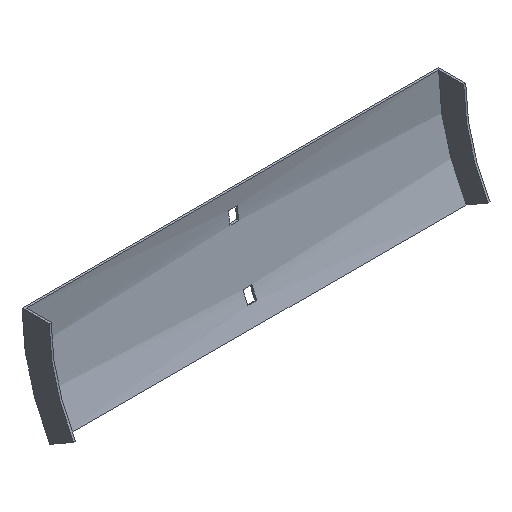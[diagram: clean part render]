
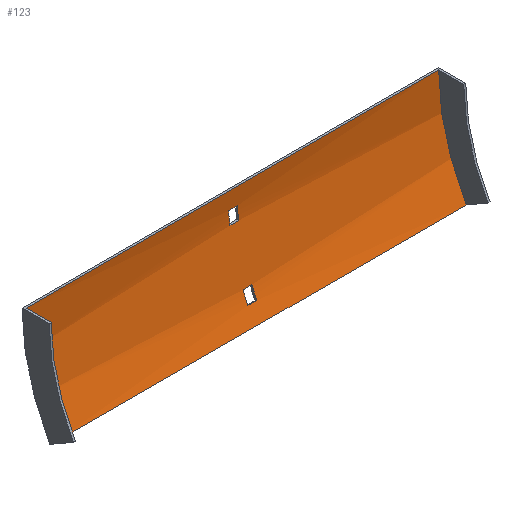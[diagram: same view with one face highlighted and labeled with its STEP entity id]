
A CAD part, isometric view. The second image highlights one B-rep face of the part: STEP entity #123.
In plain terms, the highlighted cylindrical face has radius 152 mm (diameter 304 mm), a partial arc.
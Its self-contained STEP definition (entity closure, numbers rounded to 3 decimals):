
#2 = CARTESIAN_POINT ( 'NONE',  ( -3.25, -16.275, -65.37 ) ) ;
#3 = VECTOR ( 'NONE', #240, 1000. ) ;
#15 = ORIENTED_EDGE ( 'NONE', *, *, #55, .T. ) ;
#16 = CARTESIAN_POINT ( 'NONE',  ( 3.25, -153.5, 0. ) ) ;
#18 = DIRECTION ( 'NONE',  ( -1., 0., 0. ) ) ;
#19 = VERTEX_POINT ( 'NONE', #163 ) ;
#25 = CARTESIAN_POINT ( 'NONE',  ( 3.25, -153.5, 0. ) ) ;
#28 = VERTEX_POINT ( 'NONE', #169 ) ;
#43 = CIRCLE ( 'NONE', #379, 152. ) ;
#45 = EDGE_CURVE ( 'NONE', #28, #149, #167, .T. ) ;
#54 = ORIENTED_EDGE ( 'NONE', *, *, #361, .T. ) ;
#55 = EDGE_CURVE ( 'NONE', #141, #349, #315, .T. ) ;
#60 = CIRCLE ( 'NONE', #269, 152. ) ;
#65 = CARTESIAN_POINT ( 'NONE',  ( 3.25, -16.275, -65.37 ) ) ;
#69 = DIRECTION ( 'NONE',  ( -1., 0., 0. ) ) ;
#73 = CARTESIAN_POINT ( 'NONE',  ( 153.5, -16.275, -65.37 ) ) ;
#74 = VERTEX_POINT ( 'NONE', #171 ) ;
#78 = DIRECTION ( 'NONE',  ( 1., 0., 0. ) ) ;
#79 = CARTESIAN_POINT ( 'NONE',  ( -3.25, -153.5, 0. ) ) ;
#88 = AXIS2_PLACEMENT_3D ( 'NONE', #496, #400, #205 ) ;
#90 = FACE_BOUND ( 'NONE', #142, .T. ) ;
#110 = CARTESIAN_POINT ( 'NONE',  ( 152., -153.5, 0. ) ) ;
#113 = VERTEX_POINT ( 'NONE', #368 ) ;
#123 = ADVANCED_FACE ( 'NONE', ( #90, #406, #555 ), #605, .F. ) ;
#128 = DIRECTION ( 'NONE',  ( -1., 0., 0. ) ) ;
#135 = CIRCLE ( 'NONE', #88, 152. ) ;
#139 = EDGE_CURVE ( 'NONE', #483, #28, #319, .T. ) ;
#141 = VERTEX_POINT ( 'NONE', #203 ) ;
#142 = EDGE_LOOP ( 'NONE', ( #590, #333, #194, #198 ) ) ;
#144 = VERTEX_POINT ( 'NONE', #188 ) ;
#149 = VERTEX_POINT ( 'NONE', #185 ) ;
#157 = DIRECTION ( 'NONE',  ( 0., 0., 1. ) ) ;
#163 = CARTESIAN_POINT ( 'NONE',  ( -152., -21.864, -76. ) ) ;
#167 = CIRCLE ( 'NONE', #252, 152. ) ;
#169 = CARTESIAN_POINT ( 'NONE',  ( -3.25, -1.974, -12. ) ) ;
#170 = CARTESIAN_POINT ( 'NONE',  ( -152., -1.5, 0. ) ) ;
#171 = CARTESIAN_POINT ( 'NONE',  ( 152., -21.864, -76. ) ) ;
#173 = EDGE_CURVE ( 'NONE', #74, #141, #43, .T. ) ;
#174 = DIRECTION ( 'NONE',  ( 0., 0., 1. ) ) ;
#176 = VECTOR ( 'NONE', #449, 1000. ) ;
#181 = CARTESIAN_POINT ( 'NONE',  ( 153.5, -153.5, 0. ) ) ;
#185 = CARTESIAN_POINT ( 'NONE',  ( -3.25, -2.958, -21. ) ) ;
#186 = VECTOR ( 'NONE', #18, 1000. ) ;
#188 = CARTESIAN_POINT ( 'NONE',  ( -3.25, -12.626, -57.085 ) ) ;
#194 = ORIENTED_EDGE ( 'NONE', *, *, #284, .F. ) ;
#197 = EDGE_CURVE ( 'NONE', #19, #349, #60, .T. ) ;
#198 = ORIENTED_EDGE ( 'NONE', *, *, #310, .F. ) ;
#203 = CARTESIAN_POINT ( 'NONE',  ( 152., -1.5, 0. ) ) ;
#205 = DIRECTION ( 'NONE',  ( 0., 0., -1. ) ) ;
#215 = VECTOR ( 'NONE', #443, 1000. ) ;
#220 = CARTESIAN_POINT ( 'NONE',  ( 3.25, -1.974, -12. ) ) ;
#222 = CARTESIAN_POINT ( 'NONE',  ( 152., -1.5, 0. ) ) ;
#228 = DIRECTION ( 'NONE',  ( 1., 0., 0. ) ) ;
#230 = EDGE_CURVE ( 'NONE', #113, #381, #509, .T. ) ;
#240 = DIRECTION ( 'NONE',  ( -1., 0., 0. ) ) ;
#242 = CARTESIAN_POINT ( 'NONE',  ( 152., -21.864, -76. ) ) ;
#244 = DIRECTION ( 'NONE',  ( 0., 0., 1. ) ) ;
#245 = EDGE_LOOP ( 'NONE', ( #401, #335, #534, #15 ) ) ;
#251 = LINE ( 'NONE', #290, #215 ) ;
#252 = AXIS2_PLACEMENT_3D ( 'NONE', #79, #456, #174 ) ;
#261 = AXIS2_PLACEMENT_3D ( 'NONE', #16, #78, #490 ) ;
#269 = AXIS2_PLACEMENT_3D ( 'NONE', #487, #584, #374 ) ;
#278 = CARTESIAN_POINT ( 'NONE',  ( 3.25, -2.958, -21. ) ) ;
#284 = EDGE_CURVE ( 'NONE', #575, #483, #531, .T. ) ;
#286 = DIRECTION ( 'NONE',  ( -1., 0., 0. ) ) ;
#290 = CARTESIAN_POINT ( 'NONE',  ( 153.5, -12.626, -57.085 ) ) ;
#295 = DIRECTION ( 'NONE',  ( 1., 0., 0. ) ) ;
#299 = CARTESIAN_POINT ( 'NONE',  ( 153.5, -2.958, -21. ) ) ;
#308 = AXIS2_PLACEMENT_3D ( 'NONE', #25, #286, #157 ) ;
#310 = EDGE_CURVE ( 'NONE', #149, #575, #393, .T. ) ;
#313 = DIRECTION ( 'NONE',  ( 0., 0., 1. ) ) ;
#315 = LINE ( 'NONE', #222, #176 ) ;
#319 = LINE ( 'NONE', #511, #3 ) ;
#331 = EDGE_CURVE ( 'NONE', #381, #541, #343, .T. ) ;
#333 = ORIENTED_EDGE ( 'NONE', *, *, #139, .F. ) ;
#335 = ORIENTED_EDGE ( 'NONE', *, *, #388, .F. ) ;
#343 = LINE ( 'NONE', #73, #356 ) ;
#349 = VERTEX_POINT ( 'NONE', #170 ) ;
#356 = VECTOR ( 'NONE', #69, 1000. ) ;
#361 = EDGE_CURVE ( 'NONE', #144, #113, #251, .T. ) ;
#368 = CARTESIAN_POINT ( 'NONE',  ( 3.25, -12.626, -57.085 ) ) ;
#370 = EDGE_CURVE ( 'NONE', #541, #144, #135, .T. ) ;
#374 = DIRECTION ( 'NONE',  ( 0., 0., 1. ) ) ;
#379 = AXIS2_PLACEMENT_3D ( 'NONE', #110, #228, #244 ) ;
#381 = VERTEX_POINT ( 'NONE', #65 ) ;
#388 = EDGE_CURVE ( 'NONE', #74, #19, #591, .T. ) ;
#393 = LINE ( 'NONE', #299, #452 ) ;
#399 = ORIENTED_EDGE ( 'NONE', *, *, #331, .T. ) ;
#400 = DIRECTION ( 'NONE',  ( 1., 0., 0. ) ) ;
#401 = ORIENTED_EDGE ( 'NONE', *, *, #197, .F. ) ;
#406 = FACE_OUTER_BOUND ( 'NONE', #245, .T. ) ;
#425 = ORIENTED_EDGE ( 'NONE', *, *, #370, .T. ) ;
#443 = DIRECTION ( 'NONE',  ( 1., 0., 0. ) ) ;
#449 = DIRECTION ( 'NONE',  ( -1., 0., 0. ) ) ;
#452 = VECTOR ( 'NONE', #295, 1000. ) ;
#456 = DIRECTION ( 'NONE',  ( -1., 0., 0. ) ) ;
#483 = VERTEX_POINT ( 'NONE', #220 ) ;
#487 = CARTESIAN_POINT ( 'NONE',  ( -152., -153.5, 0. ) ) ;
#490 = DIRECTION ( 'NONE',  ( 0., 0., -1. ) ) ;
#496 = CARTESIAN_POINT ( 'NONE',  ( -3.25, -153.5, 0. ) ) ;
#509 = CIRCLE ( 'NONE', #308, 152. ) ;
#511 = CARTESIAN_POINT ( 'NONE',  ( 153.5, -1.974, -12. ) ) ;
#531 = CIRCLE ( 'NONE', #261, 152. ) ;
#534 = ORIENTED_EDGE ( 'NONE', *, *, #173, .T. ) ;
#541 = VERTEX_POINT ( 'NONE', #2 ) ;
#547 = ORIENTED_EDGE ( 'NONE', *, *, #230, .T. ) ;
#555 = FACE_BOUND ( 'NONE', #576, .T. ) ;
#571 = AXIS2_PLACEMENT_3D ( 'NONE', #181, #128, #313 ) ;
#575 = VERTEX_POINT ( 'NONE', #278 ) ;
#576 = EDGE_LOOP ( 'NONE', ( #399, #425, #54, #547 ) ) ;
#584 = DIRECTION ( 'NONE',  ( 1., 0., 0. ) ) ;
#590 = ORIENTED_EDGE ( 'NONE', *, *, #45, .F. ) ;
#591 = LINE ( 'NONE', #242, #186 ) ;
#605 = CYLINDRICAL_SURFACE ( 'NONE', #571, 152. ) ;
